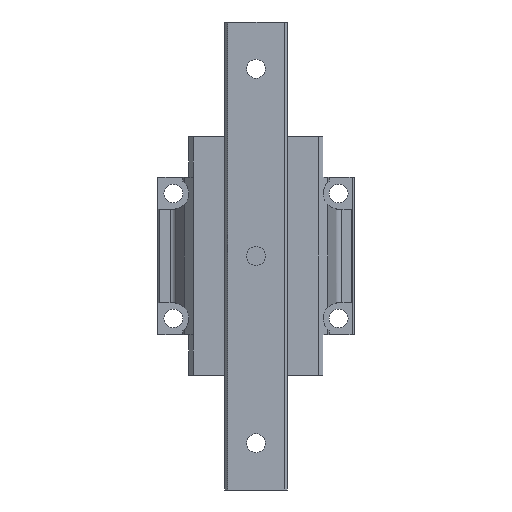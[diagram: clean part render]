
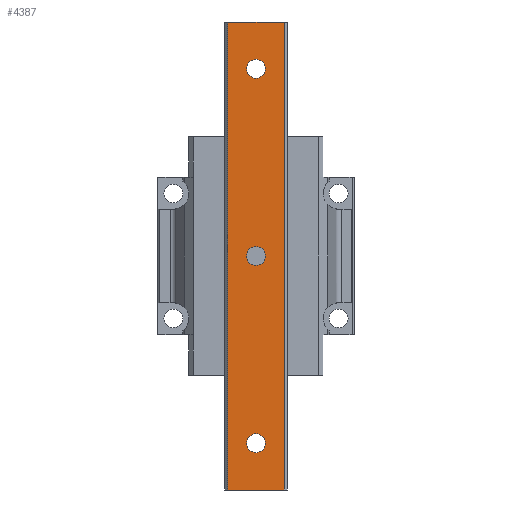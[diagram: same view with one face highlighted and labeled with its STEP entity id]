
A CAD part, front view. The second image highlights one B-rep face of the part: STEP entity #4387.
In plain terms, the highlighted planar face has unit normal (0, -1, 0).
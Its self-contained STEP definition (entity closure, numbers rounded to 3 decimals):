
#122 = EDGE_CURVE ( 'NONE', #3164, #3044, #5537, .T. ) ;
#431 = DIRECTION ( 'NONE',  ( 0., 0., -1. ) ) ;
#631 = EDGE_CURVE ( 'NONE', #9539, #11321, #11541, .T. ) ;
#696 = LINE ( 'NONE', #15497, #6321 ) ;
#1324 = LINE ( 'NONE', #13596, #11523 ) ;
#1376 = EDGE_CURVE ( 'NONE', #8953, #1788, #1324, .T. ) ;
#1474 = FACE_BOUND ( 'NONE', #3319, .T. ) ;
#1562 = VECTOR ( 'NONE', #6351, 1000. ) ;
#1788 = VERTEX_POINT ( 'NONE', #14563 ) ;
#1984 = ORIENTED_EDGE ( 'NONE', *, *, #14569, .T. ) ;
#2371 = DIRECTION ( 'NONE',  ( 0., 0., 1. ) ) ;
#2771 = DIRECTION ( 'NONE',  ( 0., 0., 1. ) ) ;
#2867 = CARTESIAN_POINT ( 'NONE',  ( 0., -17.5, -63. ) ) ;
#2889 = CARTESIAN_POINT ( 'NONE',  ( 0., -17.5, -3. ) ) ;
#3015 = CARTESIAN_POINT ( 'NONE',  ( -9., -17.5, -75. ) ) ;
#3017 = DIRECTION ( 'NONE',  ( 0., 1., 0. ) ) ;
#3044 = VERTEX_POINT ( 'NONE', #9715 ) ;
#3164 = VERTEX_POINT ( 'NONE', #16409 ) ;
#3319 = EDGE_LOOP ( 'NONE', ( #13196, #9465 ) ) ;
#3751 = EDGE_CURVE ( 'NONE', #3044, #8953, #696, .T. ) ;
#3823 = DIRECTION ( 'NONE',  ( 0., 1., 0. ) ) ;
#4193 = EDGE_CURVE ( 'NONE', #6879, #10052, #7897, .T. ) ;
#4239 = FACE_OUTER_BOUND ( 'NONE', #13013, .T. ) ;
#4384 = ORIENTED_EDGE ( 'NONE', *, *, #8797, .T. ) ;
#4387 = ADVANCED_FACE ( 'NONE', ( #4239, #1474, #10657, #14341 ), #10808, .T. ) ;
#4905 = CARTESIAN_POINT ( 'NONE',  ( 0., -17.5, -60. ) ) ;
#4994 = CIRCLE ( 'NONE', #12638, 3. ) ;
#5267 = DIRECTION ( 'NONE',  ( 1., 0., 0. ) ) ;
#5537 = LINE ( 'NONE', #10083, #1562 ) ;
#5606 = DIRECTION ( 'NONE',  ( 0., 0., 1. ) ) ;
#5718 = CARTESIAN_POINT ( 'NONE',  ( 0., -17.5, 60. ) ) ;
#5731 = ORIENTED_EDGE ( 'NONE', *, *, #13114, .T. ) ;
#5862 = DIRECTION ( 'NONE',  ( 0., 0., -1. ) ) ;
#6321 = VECTOR ( 'NONE', #14038, 1000. ) ;
#6351 = DIRECTION ( 'NONE',  ( 0., 0., 1. ) ) ;
#6387 = EDGE_LOOP ( 'NONE', ( #11525, #8616 ) ) ;
#6444 = CARTESIAN_POINT ( 'NONE',  ( 0., -17.5, -60. ) ) ;
#6601 = DIRECTION ( 'NONE',  ( 0., 1., 0. ) ) ;
#6795 = EDGE_CURVE ( 'NONE', #11321, #9539, #7994, .T. ) ;
#6879 = VERTEX_POINT ( 'NONE', #2889 ) ;
#6921 = AXIS2_PLACEMENT_3D ( 'NONE', #14097, #12903, #2371 ) ;
#7230 = EDGE_CURVE ( 'NONE', #10052, #6879, #4994, .T. ) ;
#7897 = CIRCLE ( 'NONE', #6921, 3. ) ;
#7994 = CIRCLE ( 'NONE', #15879, 3. ) ;
#8616 = ORIENTED_EDGE ( 'NONE', *, *, #631, .T. ) ;
#8765 = AXIS2_PLACEMENT_3D ( 'NONE', #3015, #9450, #431 ) ;
#8797 = EDGE_CURVE ( 'NONE', #9901, #15700, #16444, .T. ) ;
#8893 = DIRECTION ( 'NONE',  ( 0., 0., 1. ) ) ;
#8953 = VERTEX_POINT ( 'NONE', #14389 ) ;
#9302 = DIRECTION ( 'NONE',  ( 0., 1., 0. ) ) ;
#9450 = DIRECTION ( 'NONE',  ( 0., -1., 0. ) ) ;
#9465 = ORIENTED_EDGE ( 'NONE', *, *, #4193, .T. ) ;
#9539 = VERTEX_POINT ( 'NONE', #2867 ) ;
#9715 = CARTESIAN_POINT ( 'NONE',  ( 9., -17.5, 75. ) ) ;
#9901 = VERTEX_POINT ( 'NONE', #15486 ) ;
#10052 = VERTEX_POINT ( 'NONE', #12010 ) ;
#10083 = CARTESIAN_POINT ( 'NONE',  ( 9., -17.5, -75. ) ) ;
#10592 = CARTESIAN_POINT ( 'NONE',  ( 0., -17.5, 60. ) ) ;
#10657 = FACE_BOUND ( 'NONE', #13690, .T. ) ;
#10808 = PLANE ( 'NONE',  #8765 ) ;
#11156 = AXIS2_PLACEMENT_3D ( 'NONE', #4905, #15467, #8893 ) ;
#11321 = VERTEX_POINT ( 'NONE', #14724 ) ;
#11335 = ORIENTED_EDGE ( 'NONE', *, *, #122, .T. ) ;
#11516 = CARTESIAN_POINT ( 'NONE',  ( 0., -17.5, 63. ) ) ;
#11523 = VECTOR ( 'NONE', #5862, 1000. ) ;
#11525 = ORIENTED_EDGE ( 'NONE', *, *, #6795, .T. ) ;
#11530 = DIRECTION ( 'NONE',  ( 0., 0., 1. ) ) ;
#11541 = CIRCLE ( 'NONE', #11156, 3. ) ;
#11685 = AXIS2_PLACEMENT_3D ( 'NONE', #10592, #9302, #11905 ) ;
#11905 = DIRECTION ( 'NONE',  ( 0., 0., 1. ) ) ;
#12010 = CARTESIAN_POINT ( 'NONE',  ( 0., -17.5, 3. ) ) ;
#12411 = ORIENTED_EDGE ( 'NONE', *, *, #3751, .T. ) ;
#12638 = AXIS2_PLACEMENT_3D ( 'NONE', #15389, #6601, #2771 ) ;
#12903 = DIRECTION ( 'NONE',  ( 0., 1., 0. ) ) ;
#13013 = EDGE_LOOP ( 'NONE', ( #11335, #12411, #15092, #5731 ) ) ;
#13114 = EDGE_CURVE ( 'NONE', #1788, #3164, #16259, .T. ) ;
#13196 = ORIENTED_EDGE ( 'NONE', *, *, #7230, .T. ) ;
#13596 = CARTESIAN_POINT ( 'NONE',  ( -9., -17.5, -75. ) ) ;
#13690 = EDGE_LOOP ( 'NONE', ( #1984, #4384 ) ) ;
#14038 = DIRECTION ( 'NONE',  ( -1., 0., 0. ) ) ;
#14097 = CARTESIAN_POINT ( 'NONE',  ( 0., -17.5, 0. ) ) ;
#14198 = CARTESIAN_POINT ( 'NONE',  ( -9., -17.5, -75. ) ) ;
#14341 = FACE_BOUND ( 'NONE', #6387, .T. ) ;
#14389 = CARTESIAN_POINT ( 'NONE',  ( -9., -17.5, 75. ) ) ;
#14563 = CARTESIAN_POINT ( 'NONE',  ( -9., -17.5, -75. ) ) ;
#14569 = EDGE_CURVE ( 'NONE', #15700, #9901, #16596, .T. ) ;
#14724 = CARTESIAN_POINT ( 'NONE',  ( 0., -17.5, -57. ) ) ;
#15092 = ORIENTED_EDGE ( 'NONE', *, *, #1376, .T. ) ;
#15389 = CARTESIAN_POINT ( 'NONE',  ( 0., -17.5, 0. ) ) ;
#15467 = DIRECTION ( 'NONE',  ( 0., 1., 0. ) ) ;
#15486 = CARTESIAN_POINT ( 'NONE',  ( 0., -17.5, 57. ) ) ;
#15497 = CARTESIAN_POINT ( 'NONE',  ( -9., -17.5, 75. ) ) ;
#15700 = VERTEX_POINT ( 'NONE', #11516 ) ;
#15865 = VECTOR ( 'NONE', #5267, 1000. ) ;
#15879 = AXIS2_PLACEMENT_3D ( 'NONE', #6444, #3823, #11530 ) ;
#16259 = LINE ( 'NONE', #14198, #15865 ) ;
#16319 = AXIS2_PLACEMENT_3D ( 'NONE', #5718, #3017, #5606 ) ;
#16409 = CARTESIAN_POINT ( 'NONE',  ( 9., -17.5, -75. ) ) ;
#16444 = CIRCLE ( 'NONE', #11685, 3. ) ;
#16596 = CIRCLE ( 'NONE', #16319, 3. ) ;
